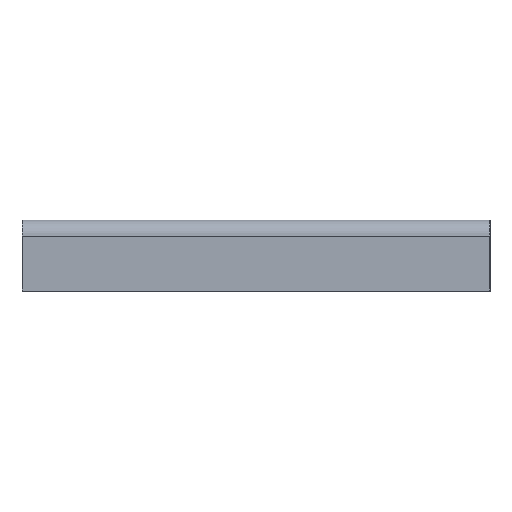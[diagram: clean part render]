
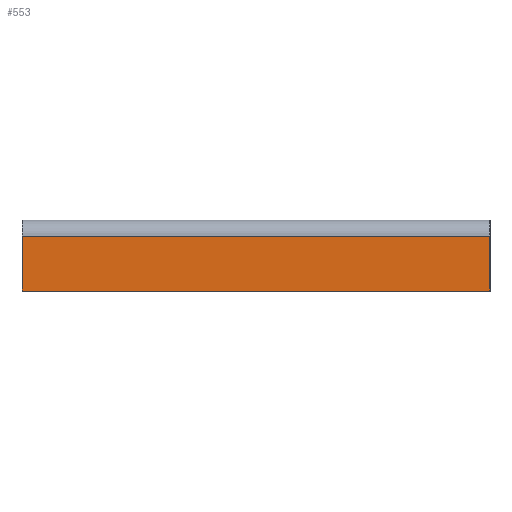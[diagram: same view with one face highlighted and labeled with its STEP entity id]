
A CAD part, top view. The second image highlights one B-rep face of the part: STEP entity #553.
In plain terms, the highlighted planar face has unit normal (0, 0, 1).
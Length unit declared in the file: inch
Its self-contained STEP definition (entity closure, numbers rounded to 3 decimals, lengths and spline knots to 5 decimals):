
#65 = VERTEX_POINT ( 'NONE', #663 ) ;
#67 = EDGE_CURVE ( 'NONE', #147, #65, #662, .T. ) ;
#147 = VERTEX_POINT ( 'NONE', #799 ) ;
#180 = EDGE_CURVE ( 'NONE', #147, #197, #849, .T. ) ;
#197 = VERTEX_POINT ( 'NONE', #820 ) ;
#546 = EDGE_CURVE ( 'NONE', #547, #197, #1380, .T. ) ;
#547 = VERTEX_POINT ( 'NONE', #1376 ) ;
#553 = ADVANCED_FACE ( 'NONE', ( #1366 ), #1365, .F. ) ;
#554 = EDGE_LOOP ( 'NONE', ( #555, #556, #576, #642 ) ) ;
#555 = ORIENTED_EDGE ( 'NONE', *, *, #180, .F. ) ;
#556 = ORIENTED_EDGE ( 'NONE', *, *, #67, .T. ) ;
#576 = ORIENTED_EDGE ( 'NONE', *, *, #577, .T. ) ;
#577 = EDGE_CURVE ( 'NONE', #65, #547, #1140, .T. ) ;
#642 = ORIENTED_EDGE ( 'NONE', *, *, #546, .T. ) ;
#659 = DIRECTION ( 'NONE',  ( 0., -1., 0. ) ) ;
#660 = VECTOR ( 'NONE', #659, 39.37008 ) ;
#661 = CARTESIAN_POINT ( 'NONE',  ( 0., 0., 0. ) ) ;
#662 = LINE ( 'NONE', #661, #660 ) ;
#663 = CARTESIAN_POINT ( 'NONE',  ( 0., -2.25, 0. ) ) ;
#799 = CARTESIAN_POINT ( 'NONE',  ( 0., -0.3125, 0. ) ) ;
#820 = CARTESIAN_POINT ( 'NONE',  ( 16.5, -0.3125, 0. ) ) ;
#846 = DIRECTION ( 'NONE',  ( 1., 0., 0. ) ) ;
#847 = VECTOR ( 'NONE', #846, 39.37008 ) ;
#848 = CARTESIAN_POINT ( 'NONE',  ( 16.5, -0.3125, 0. ) ) ;
#849 = LINE ( 'NONE', #848, #847 ) ;
#1138 = VECTOR ( 'NONE', #1243, 39.37008 ) ;
#1139 = CARTESIAN_POINT ( 'NONE',  ( 0., -2.25, 0. ) ) ;
#1140 = LINE ( 'NONE', #1139, #1138 ) ;
#1243 = DIRECTION ( 'NONE',  ( 1., 0., 0. ) ) ;
#1360 = DIRECTION ( 'NONE',  ( 0., 1., 0. ) ) ;
#1361 = DIRECTION ( 'NONE',  ( 0., 0., -1. ) ) ;
#1362 = CARTESIAN_POINT ( 'NONE',  ( 0., 0., 0. ) ) ;
#1364 = AXIS2_PLACEMENT_3D ( 'NONE', #1362, #1361, #1360 ) ;
#1365 = PLANE ( 'NONE',  #1364 ) ;
#1366 = FACE_OUTER_BOUND ( 'NONE', #554, .T. ) ;
#1376 = CARTESIAN_POINT ( 'NONE',  ( 16.5, -2.25, 0. ) ) ;
#1377 = DIRECTION ( 'NONE',  ( 0., 1., 0. ) ) ;
#1378 = VECTOR ( 'NONE', #1377, 39.37008 ) ;
#1379 = CARTESIAN_POINT ( 'NONE',  ( 16.5, 0., 0. ) ) ;
#1380 = LINE ( 'NONE', #1379, #1378 ) ;
